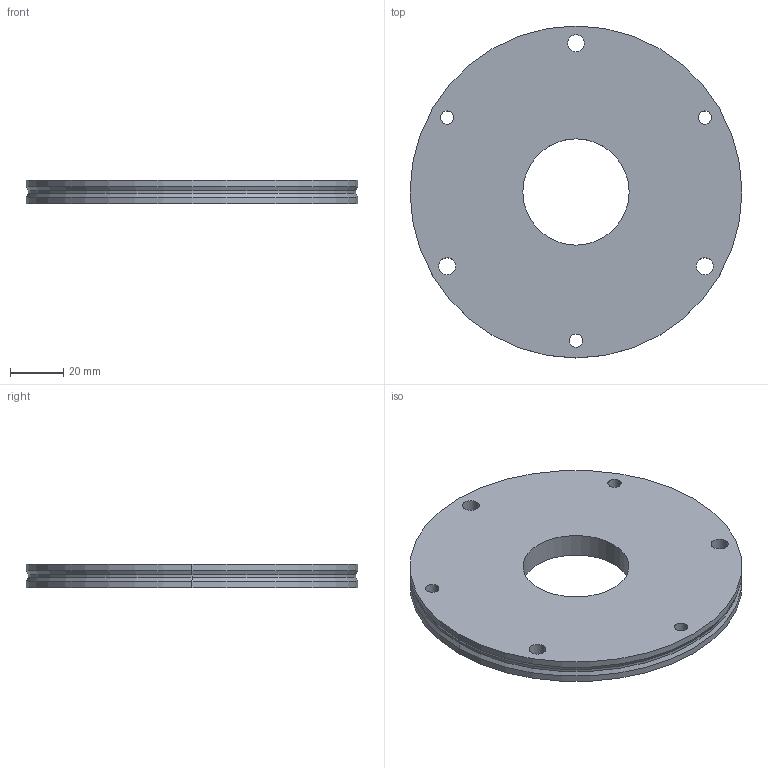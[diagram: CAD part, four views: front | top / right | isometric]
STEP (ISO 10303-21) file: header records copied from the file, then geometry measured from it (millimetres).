
FILE_DESCRIPTION (( 'STEP AP214' ), '1' );
FILE_NAME ('0438 Flansch.STEP', '2025-03-26T08:43:05', ( '' ), ( '' ), 'SwSTEP 2.0', 'SolidWorks 2022', '' );
FILE_SCHEMA (( 'AUTOMOTIVE_DESIGN' ));
Length unit declared in the file: millimetre
Products named in the file (1): 0438 Flansch
Bounding box: 125 x 125 x 9 mm (x, y, z)
Volume: 96945.3 mm3; surface area: 27491.8 mm2
Topology: 1 solids, 1 shells, 26 faces, 64 edges, 40 vertices
Faces by surface type: cylinder 20, cone 4, plane 2
Entity records: 912 total; most frequent: DIRECTION 158, CARTESIAN_POINT 131, ORIENTED_EDGE 128, AXIS2_PLACEMENT_3D 67, EDGE_CURVE 64, VERTEX_POINT 40, CIRCLE 40, EDGE_LOOP 40
